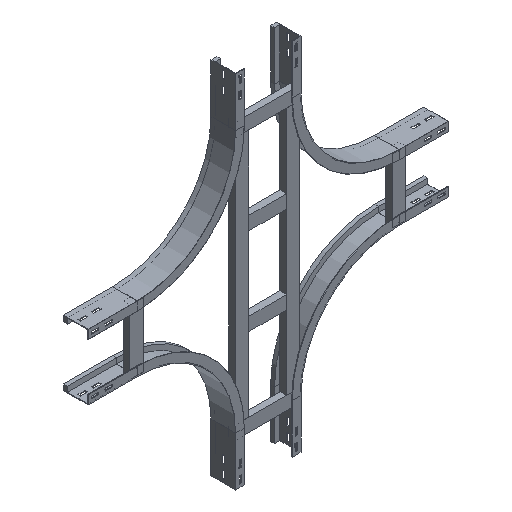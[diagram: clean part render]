
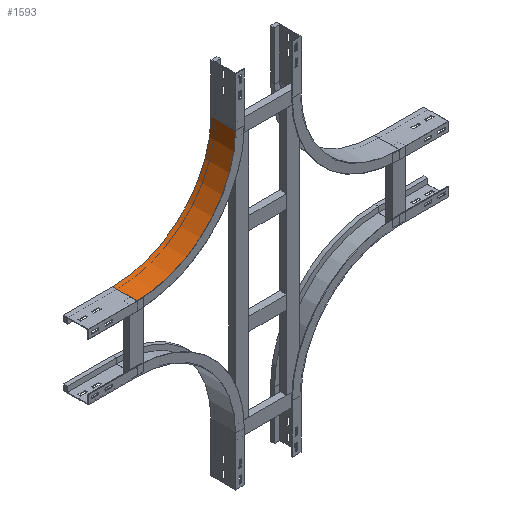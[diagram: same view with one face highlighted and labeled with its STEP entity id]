
A CAD part, isometric view. The second image highlights one B-rep face of the part: STEP entity #1593.
In plain terms, the highlighted cylindrical face has radius 300 mm (diameter 600 mm), a partial arc.
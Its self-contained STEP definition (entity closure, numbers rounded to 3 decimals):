
#92 = EDGE_CURVE ( 'NONE', #1949, #958, #2063, .T. ) ;
#179 = ORIENTED_EDGE ( 'NONE', *, *, #651, .F. ) ;
#246 = DIRECTION ( 'NONE',  ( 0., 0., -1. ) ) ;
#424 = EDGE_CURVE ( 'NONE', #764, #1077, #2466, .T. ) ;
#497 = DIRECTION ( 'NONE',  ( -1., 0., 0. ) ) ;
#542 = DIRECTION ( 'NONE',  ( 0., -1., 0. ) ) ;
#554 = CARTESIAN_POINT ( 'NONE',  ( 0., 0., -150. ) ) ;
#617 = AXIS2_PLACEMENT_3D ( 'NONE', #648, #1613, #497 ) ;
#648 = CARTESIAN_POINT ( 'NONE',  ( 300., 0., -150. ) ) ;
#651 = EDGE_CURVE ( 'NONE', #764, #1949, #2476, .T. ) ;
#763 = CARTESIAN_POINT ( 'NONE',  ( 0., 75., -150. ) ) ;
#764 = VERTEX_POINT ( 'NONE', #972 ) ;
#813 = EDGE_LOOP ( 'NONE', ( #1503, #179, #2095, #971 ) ) ;
#816 = CYLINDRICAL_SURFACE ( 'NONE', #1424, 300. ) ;
#934 = LINE ( 'NONE', #2296, #1588 ) ;
#954 = CARTESIAN_POINT ( 'NONE',  ( 300., 0., -450. ) ) ;
#958 = VERTEX_POINT ( 'NONE', #1477 ) ;
#971 = ORIENTED_EDGE ( 'NONE', *, *, #1668, .T. ) ;
#972 = CARTESIAN_POINT ( 'NONE',  ( 0., 0., -150. ) ) ;
#1077 = VERTEX_POINT ( 'NONE', #954 ) ;
#1376 = DIRECTION ( 'NONE',  ( 0., 1., 0. ) ) ;
#1424 = AXIS2_PLACEMENT_3D ( 'NONE', #1892, #2461, #246 ) ;
#1477 = CARTESIAN_POINT ( 'NONE',  ( 300., 75., -450. ) ) ;
#1492 = DIRECTION ( 'NONE',  ( 0., 1., 0. ) ) ;
#1503 = ORIENTED_EDGE ( 'NONE', *, *, #92, .F. ) ;
#1506 = VECTOR ( 'NONE', #1492, 1000. ) ;
#1588 = VECTOR ( 'NONE', #1376, 1000. ) ;
#1593 = ADVANCED_FACE ( 'NONE', ( #2156 ), #816, .F. ) ;
#1613 = DIRECTION ( 'NONE',  ( 0., -1., 0. ) ) ;
#1668 = EDGE_CURVE ( 'NONE', #1077, #958, #934, .T. ) ;
#1781 = AXIS2_PLACEMENT_3D ( 'NONE', #2097, #542, #2085 ) ;
#1892 = CARTESIAN_POINT ( 'NONE',  ( 300., 0., -150. ) ) ;
#1949 = VERTEX_POINT ( 'NONE', #763 ) ;
#2063 = CIRCLE ( 'NONE', #1781, 300. ) ;
#2085 = DIRECTION ( 'NONE',  ( -1., 0., 0. ) ) ;
#2095 = ORIENTED_EDGE ( 'NONE', *, *, #424, .T. ) ;
#2097 = CARTESIAN_POINT ( 'NONE',  ( 300., 75., -150. ) ) ;
#2156 = FACE_OUTER_BOUND ( 'NONE', #813, .T. ) ;
#2296 = CARTESIAN_POINT ( 'NONE',  ( 300., 0., -450. ) ) ;
#2461 = DIRECTION ( 'NONE',  ( 0., -1., 0. ) ) ;
#2466 = CIRCLE ( 'NONE', #617, 300. ) ;
#2476 = LINE ( 'NONE', #554, #1506 ) ;
